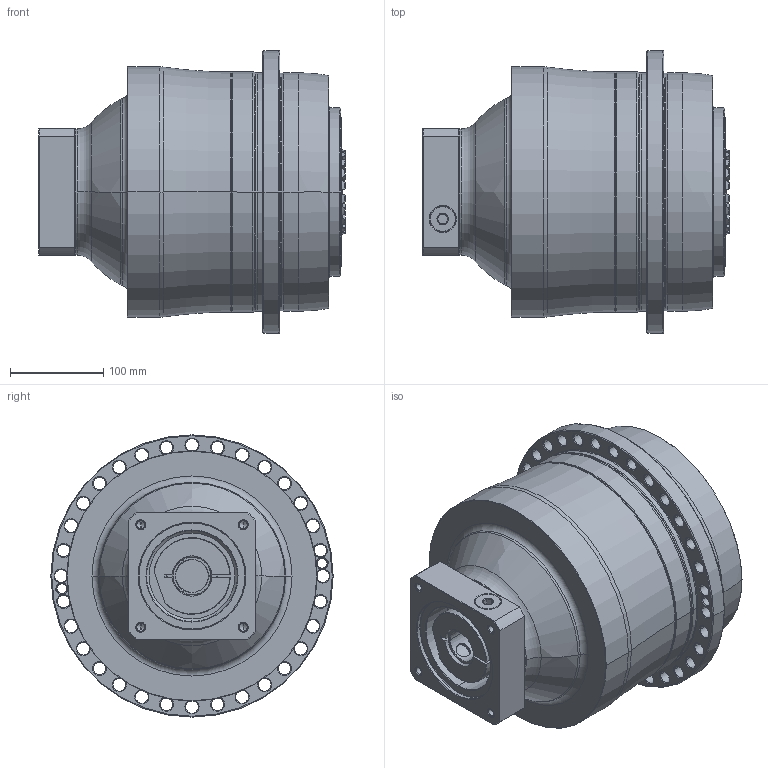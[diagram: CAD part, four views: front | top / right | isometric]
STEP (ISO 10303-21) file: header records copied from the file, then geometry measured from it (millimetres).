
FILE_DESCRIPTION((''),'2;1');
FILE_NAME('APC255_3ST_35-P0409800201_ASM','2018-07-05T',('d01226'),(''),'PRO/ENGINEER BY PARAMETRIC TECHNOLOGY CORPORATION, 2008410','PRO/ENGINEER BY PARAMETRIC TECHNOLOGY CORPORATION, 2008410','');
FILE_SCHEMA(('CONFIG_CONTROL_DESIGN'));
Length unit declared in the file: millimetre
Products named in the file (9): P0278701003; P0359770103; P1366700301; P0503800012; P0912503001; P1211700001; P0409800201; 21711422019; APC255_3ST_35-P0409800201_ASM
Assembly tree (8 placements, depth 2):
  APC255_3ST_35-P0409800201_ASM
    P0278701003
    P0359770103
    P1366700301
    P0503800012
    P0912503001
    P1211700001
    P0409800201
    21711422019
Bounding box: 328.1 x 302 x 302 mm (x, y, z)
Volume: 13489783.3 mm3; surface area: 753150.6 mm2
Topology: 9 solids, 21 shells, 765 faces, 1875 edges, 1141 vertices
Faces by surface type: cone 274, cylinder 230, plane 129, torus 116, bspline 16
Entity records: 28099 total; most frequent: CARTESIAN_POINT 9580, DIRECTION 4151, ORIENTED_EDGE 3664, EDGE_CURVE 1857, AXIS2_PLACEMENT_3D 1807, VERTEX_POINT 1141, CIRCLE 1029, EDGE_LOOP 878
